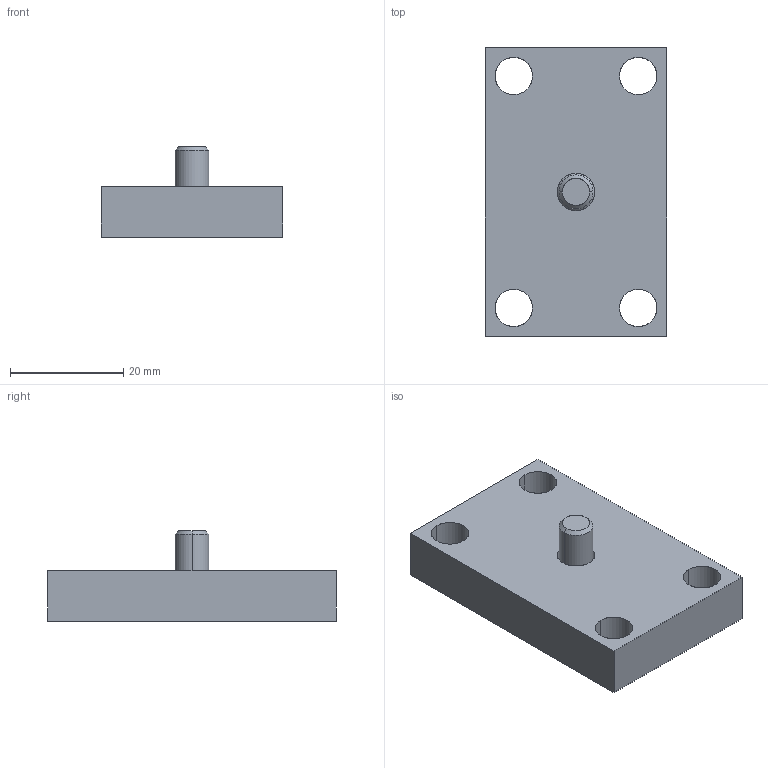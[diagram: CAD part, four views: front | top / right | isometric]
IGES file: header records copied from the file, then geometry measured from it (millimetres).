
Global section: file name: E:\UnigraphicsGraphicData\MISUMI_PRESS-PARTS\IGES\3d_bm-32_03393_r00.igs; native system: NX V5.0; preprocessor: UGS NX IGES V5.0; author: MISUMI; date: 20110105.160037; units: millimetre
Bounding box: 32 x 51 x 16 mm (x, y, z)
Surface area: 5865.5 mm2 (no closed solid volume)
Topology: 0 solids, 0 shells, 33 faces, 232 edges, 232 vertices
Faces by surface type: bspline 33
